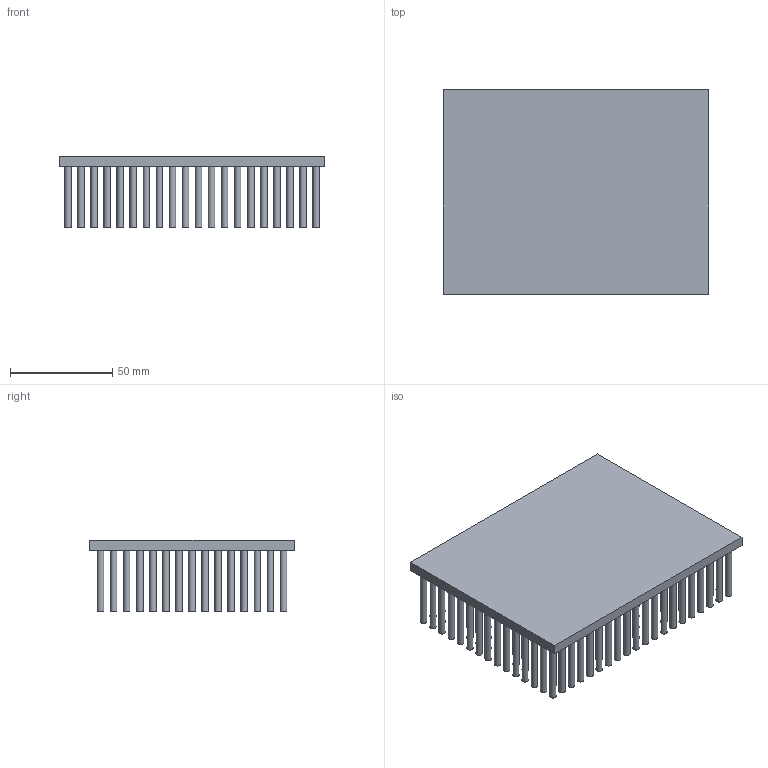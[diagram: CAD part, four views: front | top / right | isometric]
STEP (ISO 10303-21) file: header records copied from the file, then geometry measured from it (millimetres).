
FILE_DESCRIPTION(/* description */ (''),/* implementation_level */ '2;1');
FILE_NAME(/* name */ 'PB130100-B5-H35-P320.stp',/* time_stamp */ '2013-12-30T14:55:52+08:00',/* author */ (''),/* organization */ (''),/* preprocessor_version */ 'ST-DEVELOPER v14',/* originating_system */ 'SIEMENS PLM Software NX 8.0',/* authorisation */ '');
FILE_SCHEMA (('CONFIG_CONTROL_DESIGN'));
Length unit declared in the file: millimetre
Products named in the file (1): PB130100-P320
Bounding box: 130 x 100 x 35 mm (x, y, z)
Volume: 137382.3 mm3; surface area: 118777.9 mm2
Topology: 1 solids, 1 shells, 606 faces, 912 edges, 608 vertices
Faces by surface type: plane 306, cylinder 300
Full cylindrical faces by diameter (mm): 3.2 x300
Entity records: 12240 total; most frequent: DIRECTION 2426, CARTESIAN_POINT 1827, ORIENTED_EDGE 1224, AXIS2_PLACEMENT_3D 1207, EDGE_LOOP 1206, FACE_BOUND 901, EDGE_CURVE 612, VERTEX_POINT 608
